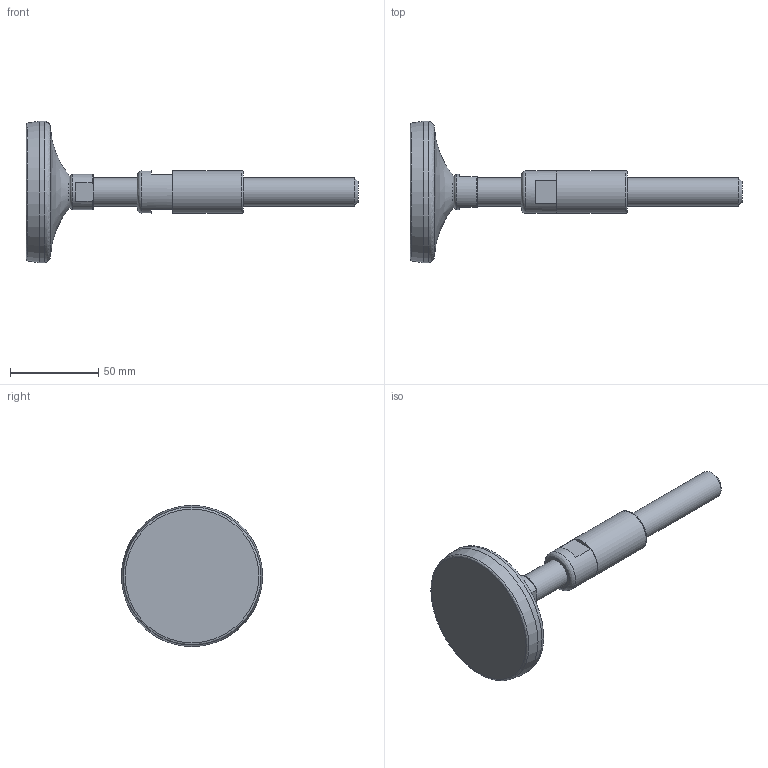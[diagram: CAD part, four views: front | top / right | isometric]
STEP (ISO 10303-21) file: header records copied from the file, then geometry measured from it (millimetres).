
FILE_DESCRIPTION(('STEP AP203'),'2;1');
FILE_NAME('27002.stp','2014-09-11T16:07:55',(''),(''),'2008.1.107','THINKDESIGN','');
FILE_SCHEMA(('CONFIG_CONTROL_DESIGN'));
Length unit declared in the file: millimetre
Bounding box: 188 x 80 x 80 mm (x, y, z)
Volume: 129496.3 mm3; surface area: 35976.5 mm2
Topology: 7 solids, 7 shells, 39 faces, 87 edges, 62 vertices
Faces by surface type: plane 22, bspline 11, cylinder 6
Full cylindrical faces by diameter (mm): 16 x2, 20 x1, 24 x2, 80 x1
Entity records: 2367 total; most frequent: CARTESIAN_POINT 1384, DIRECTION 198, ORIENTED_EDGE 174, AXIS2_PLACEMENT_3D 87, EDGE_CURVE 87, VERTEX_POINT 62, CIRCLE 59, EDGE_LOOP 39
